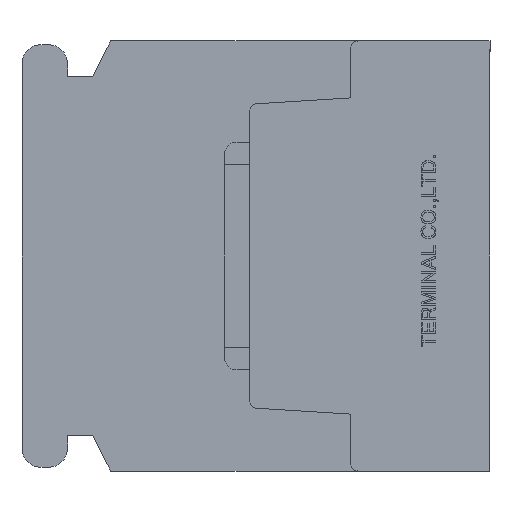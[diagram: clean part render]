
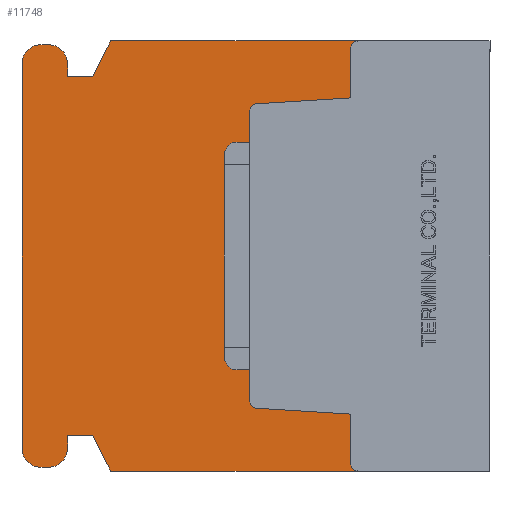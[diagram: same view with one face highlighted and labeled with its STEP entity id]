
A CAD part, left-side view. The second image highlights one B-rep face of the part: STEP entity #11748.
In plain terms, the highlighted planar face has unit normal (-1, 0, 0).
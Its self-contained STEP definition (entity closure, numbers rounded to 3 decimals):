
#704=CIRCLE('',#12320,0.3);
#706=CIRCLE('',#12324,0.3);
#708=CIRCLE('',#12329,0.3);
#710=CIRCLE('',#12332,0.3);
#719=CIRCLE('',#12489,0.75);
#720=CIRCLE('',#12490,0.75);
#721=CIRCLE('',#12491,0.75);
#722=CIRCLE('',#12492,0.75);
#1273=VERTEX_POINT('',#16982);
#1274=VERTEX_POINT('',#16984);
#1285=VERTEX_POINT('',#17010);
#1286=VERTEX_POINT('',#17012);
#1489=VERTEX_POINT('',#17722);
#1490=VERTEX_POINT('',#17723);
#1493=VERTEX_POINT('',#17731);
#1507=VERTEX_POINT('',#17761);
#1509=VERTEX_POINT('',#17767);
#1511=VERTEX_POINT('',#17773);
#1513=VERTEX_POINT('',#17779);
#1515=VERTEX_POINT('',#17788);
#1862=VERTEX_POINT('',#19330);
#1863=VERTEX_POINT('',#19332);
#1864=VERTEX_POINT('',#19334);
#1865=VERTEX_POINT('',#19336);
#1866=VERTEX_POINT('',#19338);
#1867=VERTEX_POINT('',#19340);
#1868=VERTEX_POINT('',#19342);
#1869=VERTEX_POINT('',#19344);
#1870=VERTEX_POINT('',#19346);
#1871=VERTEX_POINT('',#19348);
#1872=VERTEX_POINT('',#19350);
#1873=VERTEX_POINT('',#19352);
#2492=VECTOR('',#13543,1.);
#2505=VECTOR('',#13560,1.);
#2703=VECTOR('',#14125,1.);
#2720=VECTOR('',#14149,1.);
#2724=VECTOR('',#14160,1.);
#2727=VECTOR('',#14164,1.);
#2731=VECTOR('',#14181,1.);
#3144=VECTOR('',#14759,1.);
#3145=VECTOR('',#14760,1.);
#3146=VECTOR('',#14761,1.);
#3147=VECTOR('',#14764,1.);
#3148=VECTOR('',#14767,1.);
#3149=VECTOR('',#14770,1.);
#3150=VECTOR('',#14773,1.);
#3151=VECTOR('',#14774,1.);
#3152=VECTOR('',#14775,1.);
#3776=LINE('',#16983,#2492);
#3789=LINE('',#17011,#2505);
#3987=LINE('',#17721,#2703);
#4004=LINE('',#17760,#2720);
#4008=LINE('',#17772,#2724);
#4011=LINE('',#17778,#2727);
#4015=LINE('',#17793,#2731);
#4428=LINE('',#19329,#3144);
#4429=LINE('',#19331,#3145);
#4430=LINE('',#19333,#3146);
#4431=LINE('',#19337,#3147);
#4432=LINE('',#19341,#3148);
#4433=LINE('',#19345,#3149);
#4434=LINE('',#19349,#3150);
#4435=LINE('',#19351,#3151);
#4436=LINE('',#19353,#3152);
#5251=EDGE_CURVE('',#1273,#1274,#3776,.T.);
#5265=EDGE_CURVE('',#1285,#1286,#3789,.T.);
#5580=EDGE_CURVE('',#1489,#1490,#3987,.T.);
#5584=EDGE_CURVE('',#1493,#1489,#704,.T.);
#5599=EDGE_CURVE('',#1507,#1493,#4004,.T.);
#5602=EDGE_CURVE('',#1509,#1507,#706,.T.);
#5605=EDGE_CURVE('',#1511,#1509,#4008,.T.);
#5608=EDGE_CURVE('',#1513,#1511,#4011,.T.);
#5611=EDGE_CURVE('',#1274,#1513,#708,.T.);
#5613=EDGE_CURVE('',#1515,#1285,#710,.T.);
#5616=EDGE_CURVE('',#1490,#1515,#4015,.T.);
#6140=EDGE_CURVE('',#1862,#1273,#4428,.T.);
#6141=EDGE_CURVE('',#1863,#1862,#4429,.T.);
#6142=EDGE_CURVE('',#1864,#1863,#4430,.T.);
#6143=EDGE_CURVE('',#1865,#1864,#719,.T.);
#6144=EDGE_CURVE('',#1866,#1865,#4431,.T.);
#6145=EDGE_CURVE('',#1867,#1866,#720,.T.);
#6146=EDGE_CURVE('',#1868,#1867,#4432,.T.);
#6147=EDGE_CURVE('',#1869,#1868,#721,.T.);
#6148=EDGE_CURVE('',#1870,#1869,#4433,.T.);
#6149=EDGE_CURVE('',#1871,#1870,#722,.T.);
#6150=EDGE_CURVE('',#1872,#1871,#4434,.T.);
#6151=EDGE_CURVE('',#1873,#1872,#4435,.T.);
#6152=EDGE_CURVE('',#1286,#1873,#4436,.T.);
#9504=ORIENTED_EDGE('',*,*,#5611,.F.);
#9505=ORIENTED_EDGE('',*,*,#5251,.F.);
#9506=ORIENTED_EDGE('',*,*,#6140,.F.);
#9507=ORIENTED_EDGE('',*,*,#6141,.F.);
#9508=ORIENTED_EDGE('',*,*,#6142,.F.);
#9509=ORIENTED_EDGE('',*,*,#6143,.F.);
#9510=ORIENTED_EDGE('',*,*,#6144,.F.);
#9511=ORIENTED_EDGE('',*,*,#6145,.F.);
#9512=ORIENTED_EDGE('',*,*,#6146,.F.);
#9513=ORIENTED_EDGE('',*,*,#6147,.F.);
#9514=ORIENTED_EDGE('',*,*,#6148,.F.);
#9515=ORIENTED_EDGE('',*,*,#6149,.F.);
#9516=ORIENTED_EDGE('',*,*,#6150,.F.);
#9517=ORIENTED_EDGE('',*,*,#6151,.F.);
#9518=ORIENTED_EDGE('',*,*,#6152,.F.);
#9519=ORIENTED_EDGE('',*,*,#5265,.F.);
#9520=ORIENTED_EDGE('',*,*,#5613,.F.);
#9521=ORIENTED_EDGE('',*,*,#5616,.F.);
#9522=ORIENTED_EDGE('',*,*,#5580,.F.);
#9523=ORIENTED_EDGE('',*,*,#5584,.F.);
#9524=ORIENTED_EDGE('',*,*,#5599,.F.);
#9525=ORIENTED_EDGE('',*,*,#5602,.F.);
#9526=ORIENTED_EDGE('',*,*,#5605,.F.);
#9527=ORIENTED_EDGE('',*,*,#5608,.F.);
#10359=EDGE_LOOP('',(#9504,#9505,#9506,#9507,#9508,#9509,#9510,#9511,#9512,
#9513,#9514,#9515,#9516,#9517,#9518,#9519,#9520,#9521,#9522,#9523,#9524,
#9525,#9526,#9527));
#11091=FACE_BOUND('',#10359,.T.);
#11748=ADVANCED_FACE('',(#11091),#19899,.F.);
#12320=AXIS2_PLACEMENT_3D('',#17730,#14131,#14132);
#12324=AXIS2_PLACEMENT_3D('',#17766,#14154,#14155);
#12329=AXIS2_PLACEMENT_3D('',#17784,#14169,#14170);
#12332=AXIS2_PLACEMENT_3D('',#17787,#14175,#14176);
#12488=AXIS2_PLACEMENT_3D('',#19328,#14758,$);
#12489=AXIS2_PLACEMENT_3D('',#19335,#14762,#14763);
#12490=AXIS2_PLACEMENT_3D('',#19339,#14765,#14766);
#12491=AXIS2_PLACEMENT_3D('',#19343,#14768,#14769);
#12492=AXIS2_PLACEMENT_3D('',#19347,#14771,#14772);
#13543=DIRECTION('',(0.,-1.,0.));
#13560=DIRECTION('',(0.,1.,0.));
#14125=DIRECTION('',(0.,-0.998,-0.062));
#14131=DIRECTION('',(-1.,0.,0.));
#14132=DIRECTION('',(0.,0.,-0.3));
#14149=DIRECTION('',(0.,0.,-1.));
#14154=DIRECTION('',(-1.,0.,0.));
#14155=DIRECTION('',(0.,0.,-0.3));
#14160=DIRECTION('',(0.,0.998,-0.062));
#14164=DIRECTION('',(0.,0.,-1.));
#14169=DIRECTION('',(-1.,0.,0.));
#14170=DIRECTION('',(0.,0.,-0.3));
#14175=DIRECTION('',(-1.,0.,0.));
#14176=DIRECTION('',(0.,0.,-0.3));
#14181=DIRECTION('',(0.,0.,-1.));
#14758=DIRECTION('',(1.,0.,0.));
#14759=DIRECTION('',(0.,-0.447,0.894));
#14760=DIRECTION('',(0.,-1.,0.));
#14761=DIRECTION('',(0.,0.,-1.));
#14762=DIRECTION('',(1.,0.,0.));
#14763=DIRECTION('',(0.,0.,-0.75));
#14764=DIRECTION('',(0.,-1.,0.));
#14765=DIRECTION('',(1.,0.,0.));
#14766=DIRECTION('',(0.,0.,-0.75));
#14767=DIRECTION('',(0.,0.,1.));
#14768=DIRECTION('',(1.,0.,0.));
#14769=DIRECTION('',(0.,0.,-0.75));
#14770=DIRECTION('',(0.,1.,0.));
#14771=DIRECTION('',(1.,0.,0.));
#14772=DIRECTION('',(0.,0.,-0.75));
#14773=DIRECTION('',(0.,0.,-1.));
#14774=DIRECTION('',(0.,1.,0.));
#14775=DIRECTION('',(0.,0.447,0.894));
#16982=CARTESIAN_POINT('',(0.,15.,8.5));
#16983=CARTESIAN_POINT('',(0.,15.,8.5));
#16984=CARTESIAN_POINT('',(0.,5.2,8.5));
#17010=CARTESIAN_POINT('',(0.,5.2,-8.5));
#17011=CARTESIAN_POINT('',(0.,0.,-8.5));
#17012=CARTESIAN_POINT('',(0.,15.,-8.5));
#17721=CARTESIAN_POINT('',(0.,9.219,-6.018));
#17722=CARTESIAN_POINT('',(0.,9.219,-6.018));
#17723=CARTESIAN_POINT('',(0.,5.5,-6.25));
#17730=CARTESIAN_POINT('',(0.,9.2,-5.718));
#17731=CARTESIAN_POINT('',(0.,9.5,-5.718));
#17760=CARTESIAN_POINT('',(0.,9.5,5.718));
#17761=CARTESIAN_POINT('',(0.,9.5,5.718));
#17766=CARTESIAN_POINT('',(0.,9.2,5.718));
#17767=CARTESIAN_POINT('',(0.,9.219,6.018));
#17772=CARTESIAN_POINT('',(0.,5.5,6.25));
#17773=CARTESIAN_POINT('',(0.,5.5,6.25));
#17778=CARTESIAN_POINT('',(0.,5.5,8.2));
#17779=CARTESIAN_POINT('',(0.,5.5,8.2));
#17784=CARTESIAN_POINT('',(0.,5.2,8.2));
#17787=CARTESIAN_POINT('',(0.,5.2,-8.2));
#17788=CARTESIAN_POINT('',(0.,5.5,-8.2));
#17793=CARTESIAN_POINT('',(0.,5.5,-6.25));
#19328=CARTESIAN_POINT('',(0.,9.463,0.));
#19329=CARTESIAN_POINT('',(0.,15.7,7.1));
#19330=CARTESIAN_POINT('',(0.,15.7,7.1));
#19331=CARTESIAN_POINT('',(0.,16.7,7.1));
#19332=CARTESIAN_POINT('',(0.,16.7,7.1));
#19333=CARTESIAN_POINT('',(0.,16.7,7.6));
#19334=CARTESIAN_POINT('',(0.,16.7,7.6));
#19335=CARTESIAN_POINT('',(0.,17.45,7.6));
#19336=CARTESIAN_POINT('',(0.,17.45,8.35));
#19337=CARTESIAN_POINT('',(0.,17.75,8.35));
#19338=CARTESIAN_POINT('',(0.,17.75,8.35));
#19339=CARTESIAN_POINT('',(0.,17.75,7.6));
#19340=CARTESIAN_POINT('',(0.,18.5,7.6));
#19341=CARTESIAN_POINT('',(0.,18.5,-7.6));
#19342=CARTESIAN_POINT('',(0.,18.5,-7.6));
#19343=CARTESIAN_POINT('',(0.,17.75,-7.6));
#19344=CARTESIAN_POINT('',(0.,17.75,-8.35));
#19345=CARTESIAN_POINT('',(0.,17.45,-8.35));
#19346=CARTESIAN_POINT('',(0.,17.45,-8.35));
#19347=CARTESIAN_POINT('',(0.,17.45,-7.6));
#19348=CARTESIAN_POINT('',(0.,16.7,-7.6));
#19349=CARTESIAN_POINT('',(0.,16.7,-7.1));
#19350=CARTESIAN_POINT('',(0.,16.7,-7.1));
#19351=CARTESIAN_POINT('',(0.,15.7,-7.1));
#19352=CARTESIAN_POINT('',(0.,15.7,-7.1));
#19353=CARTESIAN_POINT('',(0.,15.,-8.5));
#19899=PLANE('',#12488);
